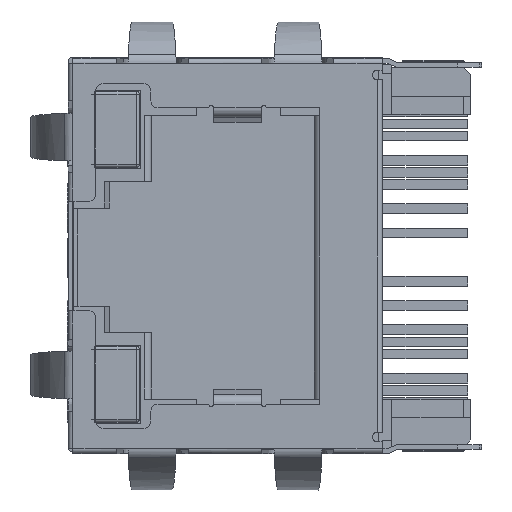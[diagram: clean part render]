
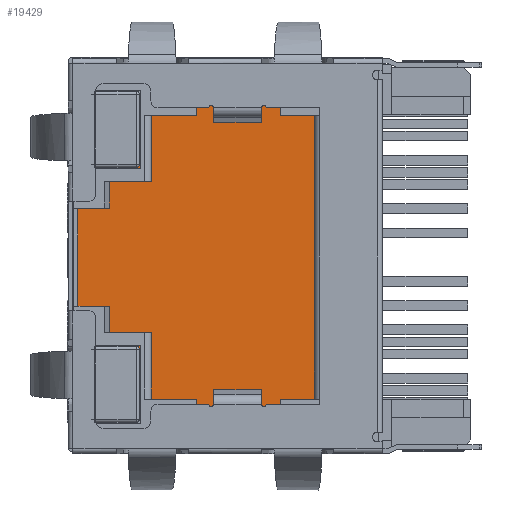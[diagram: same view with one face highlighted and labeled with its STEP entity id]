
A CAD part, left-side view. The second image highlights one B-rep face of the part: STEP entity #19429.
In plain terms, the highlighted planar face has unit normal (-1, 0, 0).
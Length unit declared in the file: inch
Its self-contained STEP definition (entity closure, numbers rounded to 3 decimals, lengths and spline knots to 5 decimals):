
#1095 = EDGE_CURVE ( 'NONE', #2027, #25961, #6440, .T. ) ;
#1216 = CARTESIAN_POINT ( 'NONE',  ( -0.19827, 1.19241, -0.07856 ) ) ;
#1347 = DIRECTION ( 'NONE',  ( 0., -1., 0. ) ) ;
#1486 = LINE ( 'NONE', #24572, #25354 ) ;
#1736 = VECTOR ( 'NONE', #19141, 39.37008 ) ;
#1893 = CARTESIAN_POINT ( 'NONE',  ( -0.19827, 2.49041, 0.46543 ) ) ;
#2027 = VERTEX_POINT ( 'NONE', #5366 ) ;
#2064 = EDGE_CURVE ( 'NONE', #18626, #9149, #3154, .T. ) ;
#2191 = ORIENTED_EDGE ( 'NONE', *, *, #8166, .F. ) ;
#2497 = VECTOR ( 'NONE', #20190, 39.37008 ) ;
#2649 = CARTESIAN_POINT ( 'NONE',  ( -0.19827, 1.20185, 0.46543 ) ) ;
#2831 = PLANE ( 'NONE',  #21020 ) ;
#2945 = ORIENTED_EDGE ( 'NONE', *, *, #8225, .F. ) ;
#3107 = DIRECTION ( 'NONE',  ( -1., 0., 0. ) ) ;
#3154 = LINE ( 'NONE', #26364, #10354 ) ;
#3838 = LINE ( 'NONE', #1893, #27188 ) ;
#3840 = VECTOR ( 'NONE', #11613, 39.37008 ) ;
#3993 = VECTOR ( 'NONE', #24071, 39.37008 ) ;
#4445 = DIRECTION ( 'NONE',  ( 0., 1., 0. ) ) ;
#4701 = EDGE_CURVE ( 'NONE', #19400, #4785, #21853, .T. ) ;
#4785 = VERTEX_POINT ( 'NONE', #2649 ) ;
#5366 = CARTESIAN_POINT ( 'NONE',  ( -0.19827, 1.17741, 0.46244 ) ) ;
#5368 = LINE ( 'NONE', #14936, #8401 ) ;
#5544 = CARTESIAN_POINT ( 'NONE',  ( -0.19827, 1.17741, 0.49344 ) ) ;
#6440 = LINE ( 'NONE', #14712, #1736 ) ;
#6529 = VERTEX_POINT ( 'NONE', #23371 ) ;
#6661 = LINE ( 'NONE', #15083, #3993 ) ;
#6978 = EDGE_LOOP ( 'NONE', ( #8378, #2945, #2191, #10275, #24272, #8469, #11773, #7600, #25212, #10038, #26227, #17418 ) ) ;
#7021 = EDGE_CURVE ( 'NONE', #6529, #7186, #9368, .T. ) ;
#7118 = CARTESIAN_POINT ( 'NONE',  ( -0.19827, 1.20185, 0.49344 ) ) ;
#7186 = VERTEX_POINT ( 'NONE', #12793 ) ;
#7470 = LINE ( 'NONE', #11885, #2497 ) ;
#7600 = ORIENTED_EDGE ( 'NONE', *, *, #24089, .F. ) ;
#7733 = VERTEX_POINT ( 'NONE', #19781 ) ;
#8166 = EDGE_CURVE ( 'NONE', #7733, #8575, #20412, .T. ) ;
#8225 = EDGE_CURVE ( 'NONE', #8575, #4785, #3838, .T. ) ;
#8378 = ORIENTED_EDGE ( 'NONE', *, *, #4701, .T. ) ;
#8401 = VECTOR ( 'NONE', #4445, 39.37008 ) ;
#8469 = ORIENTED_EDGE ( 'NONE', *, *, #7021, .T. ) ;
#8575 = VERTEX_POINT ( 'NONE', #11288 ) ;
#8768 = FACE_OUTER_BOUND ( 'NONE', #6978, .T. ) ;
#9149 = VERTEX_POINT ( 'NONE', #21413 ) ;
#9368 = LINE ( 'NONE', #1216, #9632 ) ;
#9455 = CARTESIAN_POINT ( 'NONE',  ( -0.19827, 1.19241, 0.49344 ) ) ;
#9632 = VECTOR ( 'NONE', #1347, 39.37008 ) ;
#9858 = VECTOR ( 'NONE', #21720, 39.37008 ) ;
#10038 = ORIENTED_EDGE ( 'NONE', *, *, #13375, .F. ) ;
#10275 = ORIENTED_EDGE ( 'NONE', *, *, #16791, .T. ) ;
#10354 = VECTOR ( 'NONE', #11577, 39.37008 ) ;
#11003 = CARTESIAN_POINT ( 'NONE',  ( -0.19827, 1.20185, -0.04714 ) ) ;
#11288 = CARTESIAN_POINT ( 'NONE',  ( -0.19827, 1.68049, 0.46543 ) ) ;
#11577 = DIRECTION ( 'NONE',  ( 0., 0., -1. ) ) ;
#11613 = DIRECTION ( 'NONE',  ( 0., -1., 0. ) ) ;
#11773 = ORIENTED_EDGE ( 'NONE', *, *, #21667, .F. ) ;
#11885 = CARTESIAN_POINT ( 'NONE',  ( -0.19827, 1.19241, 0.49344 ) ) ;
#12092 = VECTOR ( 'NONE', #25026, 39.37008 ) ;
#12101 = EDGE_CURVE ( 'NONE', #17107, #6529, #6661, .T. ) ;
#12445 = CARTESIAN_POINT ( 'NONE',  ( -0.19827, 1.17741, 0.46244 ) ) ;
#12793 = CARTESIAN_POINT ( 'NONE',  ( -0.19827, 1.19241, -0.07856 ) ) ;
#13375 = EDGE_CURVE ( 'NONE', #9149, #2027, #14648, .T. ) ;
#13478 = CARTESIAN_POINT ( 'NONE',  ( -0.19827, 2.49041, 0.46543 ) ) ;
#13926 = CARTESIAN_POINT ( 'NONE',  ( -0.19827, 1.68049, -0.09057 ) ) ;
#14648 = LINE ( 'NONE', #12445, #12092 ) ;
#14712 = CARTESIAN_POINT ( 'NONE',  ( -0.19827, 1.17741, 0.49344 ) ) ;
#14936 = CARTESIAN_POINT ( 'NONE',  ( -0.19827, 1.17741, -0.04756 ) ) ;
#15083 = CARTESIAN_POINT ( 'NONE',  ( -0.19827, 1.20185, -0.09057 ) ) ;
#16791 = EDGE_CURVE ( 'NONE', #7733, #17107, #1486, .T. ) ;
#16908 = CARTESIAN_POINT ( 'NONE',  ( -0.19827, 1.19241, -0.04756 ) ) ;
#17107 = VERTEX_POINT ( 'NONE', #11003 ) ;
#17418 = ORIENTED_EDGE ( 'NONE', *, *, #21598, .F. ) ;
#18210 = DIRECTION ( 'NONE',  ( 0., 0., 1. ) ) ;
#18375 = VECTOR ( 'NONE', #18210, 39.37008 ) ;
#18626 = VERTEX_POINT ( 'NONE', #9455 ) ;
#19141 = DIRECTION ( 'NONE',  ( 0., 0., -1. ) ) ;
#19235 = CARTESIAN_POINT ( 'NONE',  ( -0.19827, 1.20185, -0.09057 ) ) ;
#19400 = VERTEX_POINT ( 'NONE', #7118 ) ;
#19429 = ADVANCED_FACE ( 'NONE', ( #8768 ), #2831, .T. ) ;
#19781 = CARTESIAN_POINT ( 'NONE',  ( -0.19827, 1.68049, -0.04714 ) ) ;
#19967 = DIRECTION ( 'NONE',  ( 0., 0., 1. ) ) ;
#20010 = DIRECTION ( 'NONE',  ( 0., -1., 0. ) ) ;
#20190 = DIRECTION ( 'NONE',  ( 0., 0., -1. ) ) ;
#20412 = LINE ( 'NONE', #13926, #18375 ) ;
#21020 = AXIS2_PLACEMENT_3D ( 'NONE', #13478, #3107, #19967 ) ;
#21413 = CARTESIAN_POINT ( 'NONE',  ( -0.19827, 1.19241, 0.46244 ) ) ;
#21598 = EDGE_CURVE ( 'NONE', #19400, #18626, #26004, .T. ) ;
#21667 = EDGE_CURVE ( 'NONE', #23457, #7186, #7470, .T. ) ;
#21720 = DIRECTION ( 'NONE',  ( 0., 0., -1. ) ) ;
#21853 = LINE ( 'NONE', #19235, #9858 ) ;
#23371 = CARTESIAN_POINT ( 'NONE',  ( -0.19827, 1.20185, -0.07856 ) ) ;
#23457 = VERTEX_POINT ( 'NONE', #16908 ) ;
#24071 = DIRECTION ( 'NONE',  ( 0., 0., -1. ) ) ;
#24089 = EDGE_CURVE ( 'NONE', #25961, #23457, #5368, .T. ) ;
#24272 = ORIENTED_EDGE ( 'NONE', *, *, #12101, .T. ) ;
#24572 = CARTESIAN_POINT ( 'NONE',  ( -0.19827, 2.49041, -0.04714 ) ) ;
#25026 = DIRECTION ( 'NONE',  ( 0., -1., 0. ) ) ;
#25212 = ORIENTED_EDGE ( 'NONE', *, *, #1095, .F. ) ;
#25354 = VECTOR ( 'NONE', #20010, 39.37008 ) ;
#25911 = CARTESIAN_POINT ( 'NONE',  ( -0.19827, 1.17741, -0.04756 ) ) ;
#25961 = VERTEX_POINT ( 'NONE', #25911 ) ;
#26004 = LINE ( 'NONE', #5544, #3840 ) ;
#26227 = ORIENTED_EDGE ( 'NONE', *, *, #2064, .F. ) ;
#26364 = CARTESIAN_POINT ( 'NONE',  ( -0.19827, 1.19241, 0.49344 ) ) ;
#26906 = DIRECTION ( 'NONE',  ( 0., -1., 0. ) ) ;
#27188 = VECTOR ( 'NONE', #26906, 39.37008 ) ;
